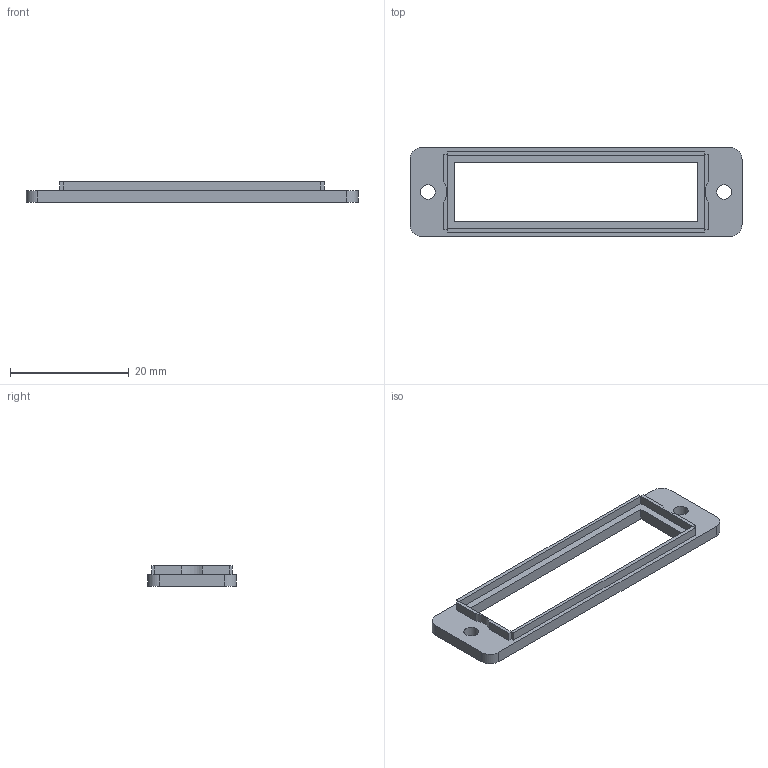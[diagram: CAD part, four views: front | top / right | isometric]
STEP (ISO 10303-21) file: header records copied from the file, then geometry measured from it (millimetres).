
FILE_DESCRIPTION(('Open CASCADE Model'),'2;1');
FILE_NAME('Open CASCADE Shape Model','2026-09-16T15:55:10',('Author'),( 'Open CASCADE'),'Open CASCADE STEP processor 7.9','Open CASCADE 7.9' ,'Unknown');
FILE_SCHEMA(('AUTOMOTIVE_DESIGN { 1 0 10303 214 1 1 1 1 }'));
Length unit declared in the file: millimetre
Products named in the file (1): Open CASCADE STEP translator 7.9 8
Bounding box: 56 x 15 x 3.5 mm (x, y, z)
Volume: 930.8 mm3; surface area: 1688.6 mm2
Topology: 1 solids, 1 shells, 38 faces, 102 edges, 68 vertices
Faces by surface type: plane 30, cylinder 8
Full cylindrical faces by diameter (mm): 2.5 x2
Entity records: 2536 total; most frequent: CARTESIAN_POINT 497, DIRECTION 366, LINE 250, VECTOR 250, ORIENTED_EDGE 204, PCURVE 204, DEFINITIONAL_REPRESENTATION 204, EDGE_CURVE 102
